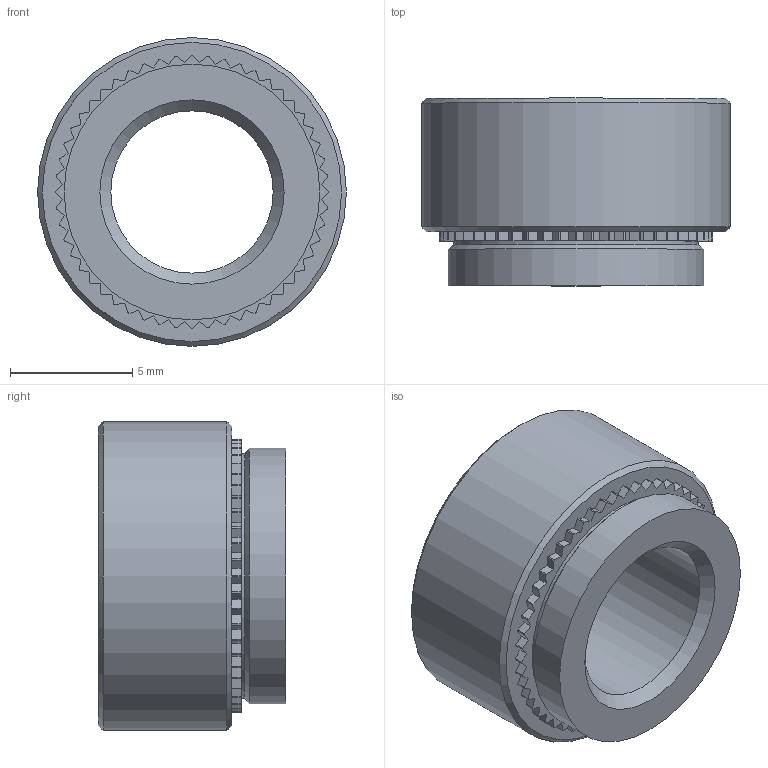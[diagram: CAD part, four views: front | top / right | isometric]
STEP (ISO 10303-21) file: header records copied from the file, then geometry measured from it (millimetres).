
FILE_DESCRIPTION(/* description */ (''),/* implementation_level */ '2;1');
FILE_NAME(/* name */ 'C:\Users\keval.kumar\Desktop\Fastit\Clinch nut\M8\Clinch Nut_M8_2.stp',/* time_stamp */ '2024-03-14T09:42:52+05:00',/* author */ ('keval.kumar'),/* organization */ (''),/* preprocessor_version */ 'ST-DEVELOPER v18.1',/* originating_system */ 'Autodesk Inventor 2022',/* authorisation */ '');
FILE_SCHEMA (('AUTOMOTIVE_DESIGN { 1 0 10303 214 3 1 1 }'));
Length unit declared in the file: millimetre
Products named in the file (1): Clinch Nut_M8_2
Bounding box: 12.65 x 7.68 x 12.65 mm (x, y, z)
Volume: 606.4 mm3; surface area: 628.5 mm2
Topology: 1 solids, 1 shells, 169 faces, 492 edges, 327 vertices
Faces by surface type: plane 108, cylinder 56, cone 5
Full cylindrical faces by diameter (mm): 6.647 x1, 10 x1, 10.47 x1, 12.65 x1
Entity records: 5628 total; most frequent: CARTESIAN_POINT 989, ORIENTED_EDGE 984, DIRECTION 951, EDGE_CURVE 492, LINE 373, VECTOR 373, VERTEX_POINT 327, AXIS2_PLACEMENT_3D 289
